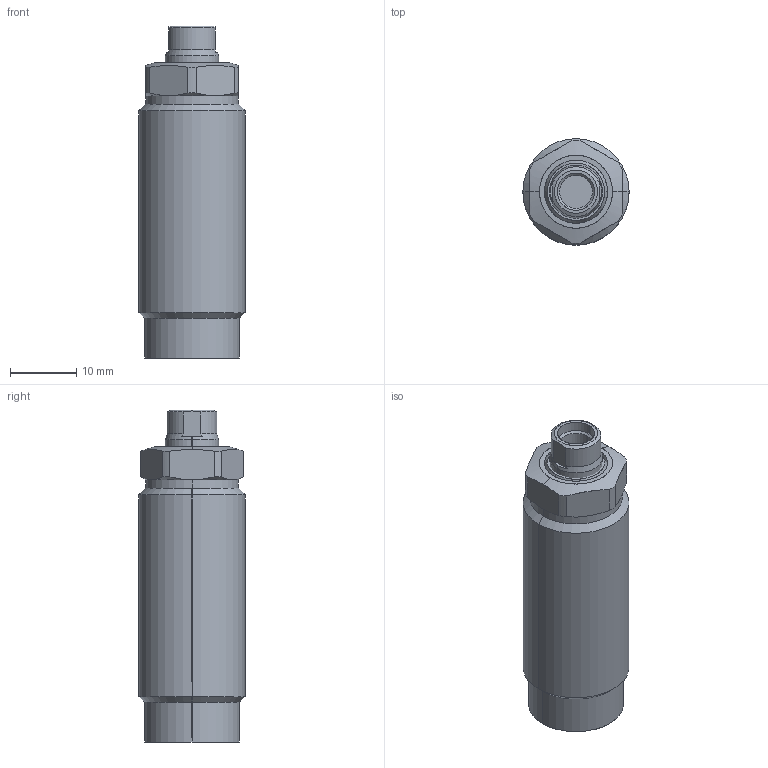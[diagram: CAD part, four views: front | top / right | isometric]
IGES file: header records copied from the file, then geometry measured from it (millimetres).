
Start section: SolidWorks IGES file using analytic representation for surfaces
Global section: file name: D:\abhilash\nijil\cylinder\Clasys1\dp converted\01\pt\03\0102-0103.IGS; native system: SolidWorks 2010; preprocessor: SolidWorks 2010; author: nidheesh; date: 130730.113651; units: millimetre
Bounding box: 16 x 16 x 50 mm (x, y, z)
Surface area: 3396 mm2 (no closed solid volume)
Topology: 0 solids, 0 shells, 74 faces, 844 edges, 844 vertices
Faces by surface type: revolution 50, bspline 24
